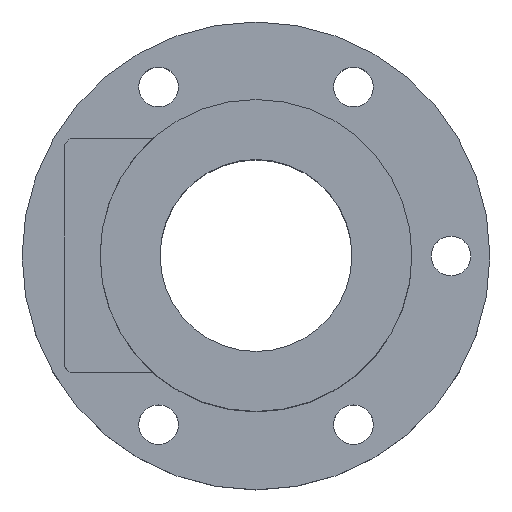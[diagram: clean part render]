
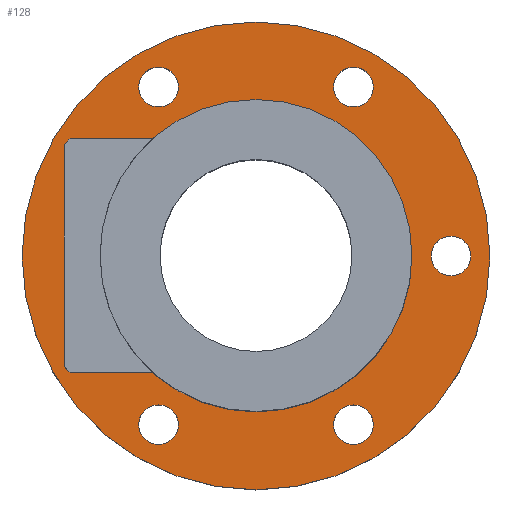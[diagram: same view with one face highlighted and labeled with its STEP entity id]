
A CAD part, top view. The second image highlights one B-rep face of the part: STEP entity #128.
In plain terms, the highlighted planar face has unit normal (0, 0, 1).
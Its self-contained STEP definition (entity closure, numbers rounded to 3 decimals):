
#97=PLANE('',#515);
#112=FACE_OUTER_BOUND('',#251,.T.);
#128=ADVANCED_FACE('',(#203,#204,#205,#112,#206,#207,#208),#97,.T.);
#203=FACE_BOUND('',#248,.T.);
#204=FACE_BOUND('',#249,.T.);
#205=FACE_BOUND('',#250,.T.);
#206=FACE_BOUND('',#252,.T.);
#207=FACE_BOUND('',#253,.T.);
#208=FACE_BOUND('',#254,.T.);
#248=EDGE_LOOP('',(#311));
#249=EDGE_LOOP('',(#312));
#250=EDGE_LOOP('',(#313));
#251=EDGE_LOOP('',(#314));
#252=EDGE_LOOP('',(#315));
#253=EDGE_LOOP('',(#316));
#254=EDGE_LOOP('',(#317));
#311=ORIENTED_EDGE('',*,*,#437,.F.);
#312=ORIENTED_EDGE('',*,*,#438,.F.);
#313=ORIENTED_EDGE('',*,*,#432,.F.);
#314=ORIENTED_EDGE('',*,*,#439,.T.);
#315=ORIENTED_EDGE('',*,*,#440,.F.);
#316=ORIENTED_EDGE('',*,*,#441,.F.);
#317=ORIENTED_EDGE('',*,*,#442,.F.);
#394=VERTEX_POINT('',#694);
#399=VERTEX_POINT('',#705);
#400=VERTEX_POINT('',#707);
#401=VERTEX_POINT('',#709);
#402=VERTEX_POINT('',#711);
#403=VERTEX_POINT('',#713);
#404=VERTEX_POINT('',#715);
#432=EDGE_CURVE('',#394,#394,#476,.T.);
#437=EDGE_CURVE('',#399,#399,#479,.T.);
#438=EDGE_CURVE('',#400,#400,#480,.T.);
#439=EDGE_CURVE('',#401,#401,#481,.T.);
#440=EDGE_CURVE('',#402,#402,#482,.T.);
#441=EDGE_CURVE('',#403,#403,#483,.T.);
#442=EDGE_CURVE('',#404,#404,#484,.T.);
#476=CIRCLE('',#505,26.);
#479=CIRCLE('',#509,3.3);
#480=CIRCLE('',#510,3.3);
#481=CIRCLE('',#511,39.);
#482=CIRCLE('',#512,3.3);
#483=CIRCLE('',#513,3.3);
#484=CIRCLE('',#514,3.3);
#505=AXIS2_PLACEMENT_3D('',#693,#564,#565);
#509=AXIS2_PLACEMENT_3D('',#704,#574,#575);
#510=AXIS2_PLACEMENT_3D('',#706,#576,#577);
#511=AXIS2_PLACEMENT_3D('',#708,#578,#579);
#512=AXIS2_PLACEMENT_3D('',#710,#580,#581);
#513=AXIS2_PLACEMENT_3D('',#712,#582,#583);
#514=AXIS2_PLACEMENT_3D('',#714,#584,#585);
#515=AXIS2_PLACEMENT_3D('',#716,#586,#587);
#564=DIRECTION('',(0.,0.,1.));
#565=DIRECTION('',(1.,0.,0.));
#574=DIRECTION('',(0.,0.,1.));
#575=DIRECTION('',(-0.5,-0.866,0.));
#576=DIRECTION('',(0.,0.,1.));
#577=DIRECTION('',(0.5,0.866,0.));
#578=DIRECTION('',(0.,0.,1.));
#579=DIRECTION('',(1.,0.,0.));
#580=DIRECTION('',(0.,0.,1.));
#581=DIRECTION('',(1.,0.,0.));
#582=DIRECTION('',(0.,0.,1.));
#583=DIRECTION('',(-1.,0.,0.));
#584=DIRECTION('',(0.,0.,1.));
#585=DIRECTION('',(0.5,-0.866,0.));
#586=DIRECTION('',(0.,0.,1.));
#587=DIRECTION('',(1.,0.,0.));
#693=CARTESIAN_POINT('',(0.,0.,12.));
#694=CARTESIAN_POINT('',(26.,0.,12.));
#704=CARTESIAN_POINT('',(16.25,-28.146,12.));
#705=CARTESIAN_POINT('',(14.6,-31.004,12.));
#706=CARTESIAN_POINT('',(-16.25,28.146,12.));
#707=CARTESIAN_POINT('',(-14.6,31.004,12.));
#708=CARTESIAN_POINT('',(0.,0.,12.));
#709=CARTESIAN_POINT('',(39.,0.,12.));
#710=CARTESIAN_POINT('',(16.25,28.146,12.));
#711=CARTESIAN_POINT('',(19.55,28.146,12.));
#712=CARTESIAN_POINT('',(-16.25,-28.146,12.));
#713=CARTESIAN_POINT('',(-19.55,-28.146,12.));
#714=CARTESIAN_POINT('',(32.5,0.,12.));
#715=CARTESIAN_POINT('',(34.15,-2.858,12.));
#716=CARTESIAN_POINT('',(0.,0.,12.));
